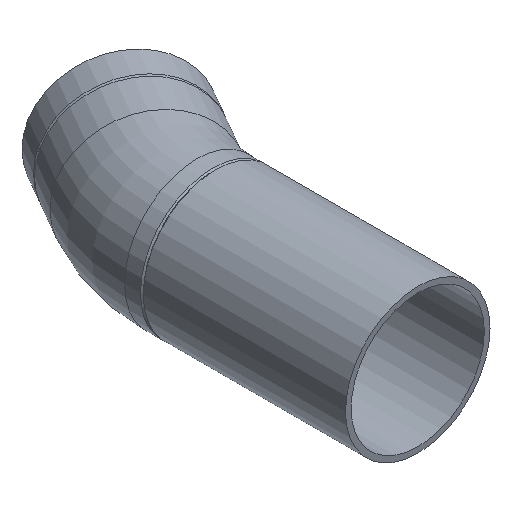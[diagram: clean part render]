
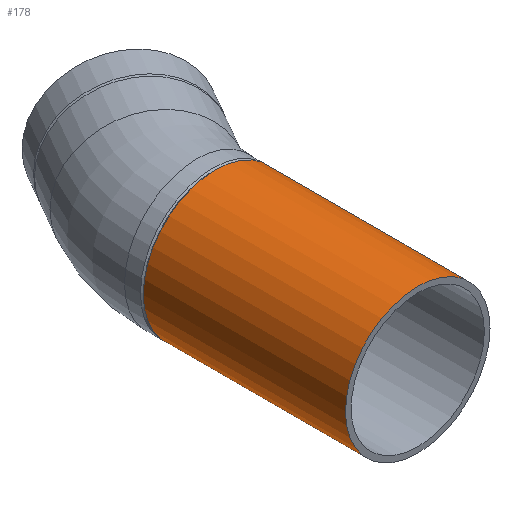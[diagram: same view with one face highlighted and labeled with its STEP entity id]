
A CAD part, isometric view. The second image highlights one B-rep face of the part: STEP entity #178.
In plain terms, the highlighted cylindrical face has radius 55 mm (diameter 110 mm), a full revolution.
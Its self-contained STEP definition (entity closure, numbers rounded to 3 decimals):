
#21=CYLINDRICAL_SURFACE($,#208,55.);
#33=FACE_BOUND($,#73,.T.);
#49=FACE_OUTER_BOUND($,#72,.T.);
#72=EDGE_LOOP($,(#142));
#73=EDGE_LOOP($,(#143));
#83=CIRCLE($,#193,55.);
#91=CIRCLE($,#209,55.);
#97=VERTEX_POINT($,#285);
#105=VERTEX_POINT($,#309);
#111=EDGE_CURVE($,#97,#97,#83,.T.);
#119=EDGE_CURVE($,#105,#105,#91,.T.);
#142=ORIENTED_EDGE($,*,*,#111,.T.);
#143=ORIENTED_EDGE($,*,*,#119,.F.);
#178=ADVANCED_FACE($,(#49,#33),#21,.T.);
#193=AXIS2_PLACEMENT_3D($,#286,#232,#233);
#208=AXIS2_PLACEMENT_3D($,#308,#262,#263);
#209=AXIS2_PLACEMENT_3D($,#310,#264,#265);
#232=DIRECTION('center_axis',(0.,-1.,0.));
#233=DIRECTION('ref_axis',(1.,0.,0.));
#262=DIRECTION('center_axis',(0.,1.,0.));
#263=DIRECTION('ref_axis',(1.,0.,0.));
#264=DIRECTION('center_axis',(0.,-1.,0.));
#265=DIRECTION('ref_axis',(1.,0.,0.));
#285=CARTESIAN_POINT('',(-55.,153.9,0.));
#286=CARTESIAN_POINT('Origin',(0.,153.9,0.));
#308=CARTESIAN_POINT('Origin',(0.,0.,0.));
#309=CARTESIAN_POINT('',(-55.,0.,0.));
#310=CARTESIAN_POINT('Origin',(0.,0.,0.));
